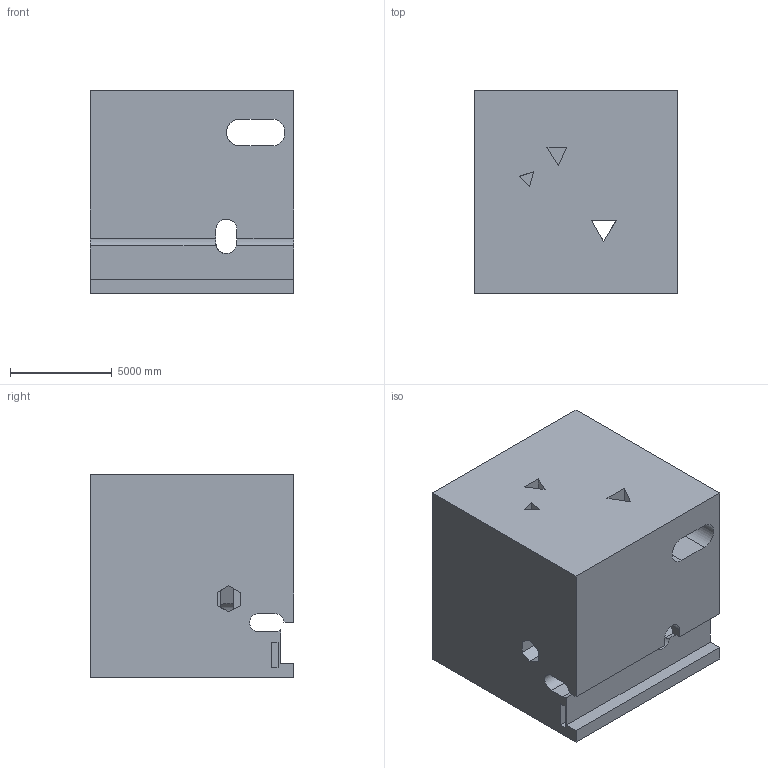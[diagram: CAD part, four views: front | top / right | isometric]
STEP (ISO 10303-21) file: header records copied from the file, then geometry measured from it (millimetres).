
FILE_DESCRIPTION (( 'STEP AP203' ), '1' );
FILE_NAME ('90.STEP', '2022-09-01T12:06:22', ( 'user' ), ( '' ), 'SwSTEP 2.0', 'SolidWorks 2021', '' );
FILE_SCHEMA (( 'CONFIG_CONTROL_DESIGN' ));
Length unit declared in the file: centimetre
Products named in the file (1): 90
Bounding box: 10000 x 10000 x 10000 mm (x, y, z)
Volume: 910697181632.4 mm3; surface area: 814176094.4 mm2
Topology: 1 solids, 1 shells, 61 faces, 183 edges, 122 vertices
Faces by surface type: plane 47, cylinder 14
Entity records: 2265 total; most frequent: CARTESIAN_POINT 512, ORIENTED_EDGE 366, DIRECTION 325, EDGE_CURVE 183, VECTOR 145, LINE 145, VERTEX_POINT 122, AXIS2_PLACEMENT_3D 90
